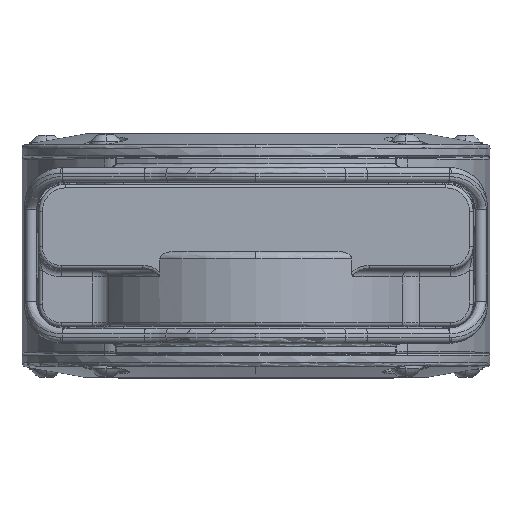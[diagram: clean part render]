
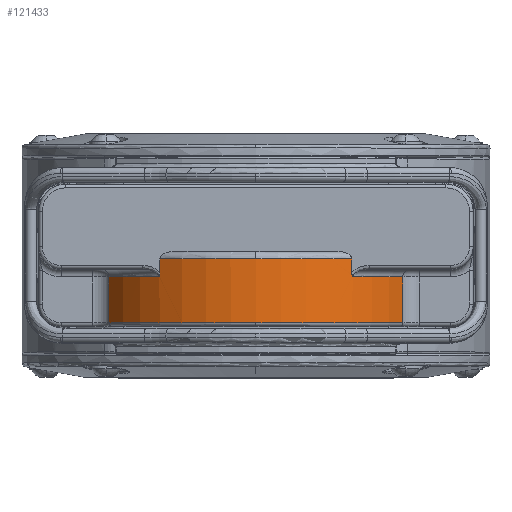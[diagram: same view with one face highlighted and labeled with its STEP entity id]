
A CAD part, top view. The second image highlights one B-rep face of the part: STEP entity #121433.
In plain terms, the highlighted cylindrical face has radius 45 mm (diameter 90 mm), a partial arc.
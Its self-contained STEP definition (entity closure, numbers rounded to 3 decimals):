
#2756 = EDGE_CURVE ( 'NONE', #42975, #104854, #27632, .T. ) ;
#4715 = CARTESIAN_POINT ( 'NONE',  ( -39.228, 5.75, -54.55 ) ) ;
#5590 = VECTOR ( 'NONE', #120033, 1000. ) ;
#5734 = VERTEX_POINT ( 'NONE', #4715 ) ;
#7297 = CARTESIAN_POINT ( 'NONE',  ( 0., 18., -77.5 ) ) ;
#7551 = CARTESIAN_POINT ( 'NONE',  ( 25.873, 5.75, -69.318 ) ) ;
#9620 = CARTESIAN_POINT ( 'NONE',  ( 25.612, 4.906, -69.5 ) ) ;
#10222 = VECTOR ( 'NONE', #19286, 1000. ) ;
#12006 = AXIS2_PLACEMENT_3D ( 'NONE', #77830, #119877, #88803 ) ;
#13200 = EDGE_CURVE ( 'NONE', #5734, #121996, #120109, .T. ) ;
#13227 = CARTESIAN_POINT ( 'NONE',  ( 0., 18., -32.5 ) ) ;
#14557 = CARTESIAN_POINT ( 'NONE',  ( -25.873, 5.75, -69.318 ) ) ;
#14856 = DIRECTION ( 'NONE',  ( 0., 1., 0. ) ) ;
#17225 = CARTESIAN_POINT ( 'NONE',  ( 25.873, 5.75, -69.318 ) ) ;
#19286 = DIRECTION ( 'NONE',  ( 0., -1., 0. ) ) ;
#19966 = ORIENTED_EDGE ( 'NONE', *, *, #20259, .T. ) ;
#20245 = VECTOR ( 'NONE', #66373, 1000. ) ;
#20259 = EDGE_CURVE ( 'NONE', #129849, #125711, #73899, .T. ) ;
#20559 = CARTESIAN_POINT ( 'NONE',  ( 25.719, 5.435, -69.426 ) ) ;
#20792 = EDGE_LOOP ( 'NONE', ( #65383, #129745, #52778, #57387, #23519, #75168, #77622, #19966, #53831, #118472, #22361, #133195 ) ) ;
#20921 = EDGE_CURVE ( 'NONE', #104854, #53999, #134060, .T. ) ;
#21027 = EDGE_CURVE ( 'NONE', #61261, #101796, #27690, .T. ) ;
#21476 = EDGE_CURVE ( 'NONE', #125711, #42975, #129211, .T. ) ;
#21609 = B_SPLINE_CURVE_WITH_KNOTS ( 'NONE', 3,
 ( #7551, #135692, #20559, #61887, #9620, #59848 ),
 .UNSPECIFIED., .F., .F.,
 ( 4, 2, 4 ),
 ( 0., 0.001, 0.001 ),
 .UNSPECIFIED. ) ;
#22361 = ORIENTED_EDGE ( 'NONE', *, *, #20921, .T. ) ;
#23519 = ORIENTED_EDGE ( 'NONE', *, *, #114113, .T. ) ;
#26519 = DIRECTION ( 'NONE',  ( 1., 0., 0. ) ) ;
#27632 = LINE ( 'NONE', #69701, #5590 ) ;
#27690 = CIRCLE ( 'NONE', #104789, 45. ) ;
#35463 = EDGE_CURVE ( 'NONE', #53999, #5734, #114506, .T. ) ;
#35554 = DIRECTION ( 'NONE',  ( 0., 0., -1. ) ) ;
#42975 = VERTEX_POINT ( 'NONE', #58040 ) ;
#43885 = VECTOR ( 'NONE', #69057, 1000. ) ;
#44830 = DIRECTION ( 'NONE',  ( 0., 0., -1. ) ) ;
#45084 = EDGE_CURVE ( 'NONE', #63686, #129849, #121457, .T. ) ;
#45552 = CARTESIAN_POINT ( 'NONE',  ( 25.612, 4.723, -69.5 ) ) ;
#45843 = DIRECTION ( 'NONE',  ( 1., 0., 0. ) ) ;
#46324 = CARTESIAN_POINT ( 'NONE',  ( 25.612, -1., -69.5 ) ) ;
#50130 = CARTESIAN_POINT ( 'NONE',  ( 0., 1., -32.5 ) ) ;
#51555 = CARTESIAN_POINT ( 'NONE',  ( 0., 1., -77.5 ) ) ;
#51698 = FACE_OUTER_BOUND ( 'NONE', #20792, .T. ) ;
#52778 = ORIENTED_EDGE ( 'NONE', *, *, #21027, .T. ) ;
#52993 = CARTESIAN_POINT ( 'NONE',  ( 39.228, -1., -54.55 ) ) ;
#53831 = ORIENTED_EDGE ( 'NONE', *, *, #21476, .T. ) ;
#53994 = EDGE_CURVE ( 'NONE', #133047, #63686, #21609, .T. ) ;
#53999 = VERTEX_POINT ( 'NONE', #76335 ) ;
#54641 = CARTESIAN_POINT ( 'NONE',  ( -39.228, 18., -54.55 ) ) ;
#55207 = DIRECTION ( 'NONE',  ( 0., -1., 0. ) ) ;
#57201 = CARTESIAN_POINT ( 'NONE',  ( -25.633, 5.085, -69.486 ) ) ;
#57387 = ORIENTED_EDGE ( 'NONE', *, *, #129779, .T. ) ;
#58040 = CARTESIAN_POINT ( 'NONE',  ( -25.612, 1., -69.5 ) ) ;
#59848 = CARTESIAN_POINT ( 'NONE',  ( 25.612, 4.723, -69.5 ) ) ;
#61261 = VERTEX_POINT ( 'NONE', #7297 ) ;
#61887 = CARTESIAN_POINT ( 'NONE',  ( 25.633, 5.085, -69.486 ) ) ;
#62467 = CARTESIAN_POINT ( 'NONE',  ( 0., 1., -32.5 ) ) ;
#63686 = VERTEX_POINT ( 'NONE', #45552 ) ;
#65020 = AXIS2_PLACEMENT_3D ( 'NONE', #50130, #89436, #123258 ) ;
#65383 = ORIENTED_EDGE ( 'NONE', *, *, #13200, .T. ) ;
#66373 = DIRECTION ( 'NONE',  ( 0., 1., 0. ) ) ;
#67086 = CARTESIAN_POINT ( 'NONE',  ( 0., 18., -32.5 ) ) ;
#67695 = CARTESIAN_POINT ( 'NONE',  ( -39.228, -1., -54.55 ) ) ;
#68212 = CARTESIAN_POINT ( 'NONE',  ( -25.612, 4.906, -69.5 ) ) ;
#69057 = DIRECTION ( 'NONE',  ( 0., -1., 0. ) ) ;
#69701 = CARTESIAN_POINT ( 'NONE',  ( -25.612, -1., -69.5 ) ) ;
#73899 = CIRCLE ( 'NONE', #65020, 45. ) ;
#75168 = ORIENTED_EDGE ( 'NONE', *, *, #53994, .T. ) ;
#76335 = CARTESIAN_POINT ( 'NONE',  ( -25.873, 5.75, -69.318 ) ) ;
#76910 = CARTESIAN_POINT ( 'NONE',  ( 0., 5.75, -32.5 ) ) ;
#77531 = CARTESIAN_POINT ( 'NONE',  ( 0., 5.75, -32.5 ) ) ;
#77622 = ORIENTED_EDGE ( 'NONE', *, *, #45084, .T. ) ;
#77830 = CARTESIAN_POINT ( 'NONE',  ( 0., -1., -32.5 ) ) ;
#83817 = EDGE_CURVE ( 'NONE', #121996, #61261, #127164, .T. ) ;
#85143 = CIRCLE ( 'NONE', #129287, 45. ) ;
#87439 = VERTEX_POINT ( 'NONE', #129461 ) ;
#87888 = DIRECTION ( 'NONE',  ( 0., 1., 0. ) ) ;
#88803 = DIRECTION ( 'NONE',  ( 0., 0., 1. ) ) ;
#89436 = DIRECTION ( 'NONE',  ( 0., 1., 0. ) ) ;
#89533 = AXIS2_PLACEMENT_3D ( 'NONE', #62467, #87888, #35554 ) ;
#90472 = DIRECTION ( 'NONE',  ( 0., 0., -1. ) ) ;
#93765 = CYLINDRICAL_SURFACE ( 'NONE', #12006, 45. ) ;
#99268 = CARTESIAN_POINT ( 'NONE',  ( -25.787, 5.603, -69.378 ) ) ;
#101301 = AXIS2_PLACEMENT_3D ( 'NONE', #76910, #119611, #45843 ) ;
#101796 = VERTEX_POINT ( 'NONE', #133315 ) ;
#104789 = AXIS2_PLACEMENT_3D ( 'NONE', #13227, #55207, #44830 ) ;
#104854 = VERTEX_POINT ( 'NONE', #127924 ) ;
#105190 = AXIS2_PLACEMENT_3D ( 'NONE', #67086, #133949, #90472 ) ;
#108913 = CARTESIAN_POINT ( 'NONE',  ( -25.612, 4.723, -69.5 ) ) ;
#114113 = EDGE_CURVE ( 'NONE', #87439, #133047, #85143, .T. ) ;
#114506 = CIRCLE ( 'NONE', #101301, 45. ) ;
#115747 = LINE ( 'NONE', #52993, #10222 ) ;
#117781 = CARTESIAN_POINT ( 'NONE',  ( 25.612, 1., -69.5 ) ) ;
#118472 = ORIENTED_EDGE ( 'NONE', *, *, #2756, .T. ) ;
#119611 = DIRECTION ( 'NONE',  ( 0., 1., 0. ) ) ;
#119877 = DIRECTION ( 'NONE',  ( 0., 1., 0. ) ) ;
#119943 = CARTESIAN_POINT ( 'NONE',  ( -25.719, 5.434, -69.426 ) ) ;
#120033 = DIRECTION ( 'NONE',  ( 0., 1., 0. ) ) ;
#120109 = LINE ( 'NONE', #67695, #20245 ) ;
#121433 = ADVANCED_FACE ( 'NONE', ( #51698 ), #93765, .T. ) ;
#121457 = LINE ( 'NONE', #46324, #43885 ) ;
#121996 = VERTEX_POINT ( 'NONE', #54641 ) ;
#123258 = DIRECTION ( 'NONE',  ( 0., 0., -1. ) ) ;
#125711 = VERTEX_POINT ( 'NONE', #51555 ) ;
#127164 = CIRCLE ( 'NONE', #105190, 45. ) ;
#127924 = CARTESIAN_POINT ( 'NONE',  ( -25.612, 4.723, -69.5 ) ) ;
#129211 = CIRCLE ( 'NONE', #89533, 45. ) ;
#129287 = AXIS2_PLACEMENT_3D ( 'NONE', #77531, #14856, #26519 ) ;
#129461 = CARTESIAN_POINT ( 'NONE',  ( 39.228, 5.75, -54.55 ) ) ;
#129745 = ORIENTED_EDGE ( 'NONE', *, *, #83817, .T. ) ;
#129779 = EDGE_CURVE ( 'NONE', #101796, #87439, #115747, .T. ) ;
#129849 = VERTEX_POINT ( 'NONE', #117781 ) ;
#133047 = VERTEX_POINT ( 'NONE', #17225 ) ;
#133195 = ORIENTED_EDGE ( 'NONE', *, *, #35463, .T. ) ;
#133315 = CARTESIAN_POINT ( 'NONE',  ( 39.228, 18., -54.55 ) ) ;
#133949 = DIRECTION ( 'NONE',  ( 0., -1., 0. ) ) ;
#134060 = B_SPLINE_CURVE_WITH_KNOTS ( 'NONE', 3,
 ( #108913, #68212, #57201, #119943, #99268, #14557 ),
 .UNSPECIFIED., .F., .F.,
 ( 4, 2, 4 ),
 ( 0., 0.001, 0.001 ),
 .UNSPECIFIED. ) ;
#135692 = CARTESIAN_POINT ( 'NONE',  ( 25.787, 5.602, -69.379 ) ) ;
